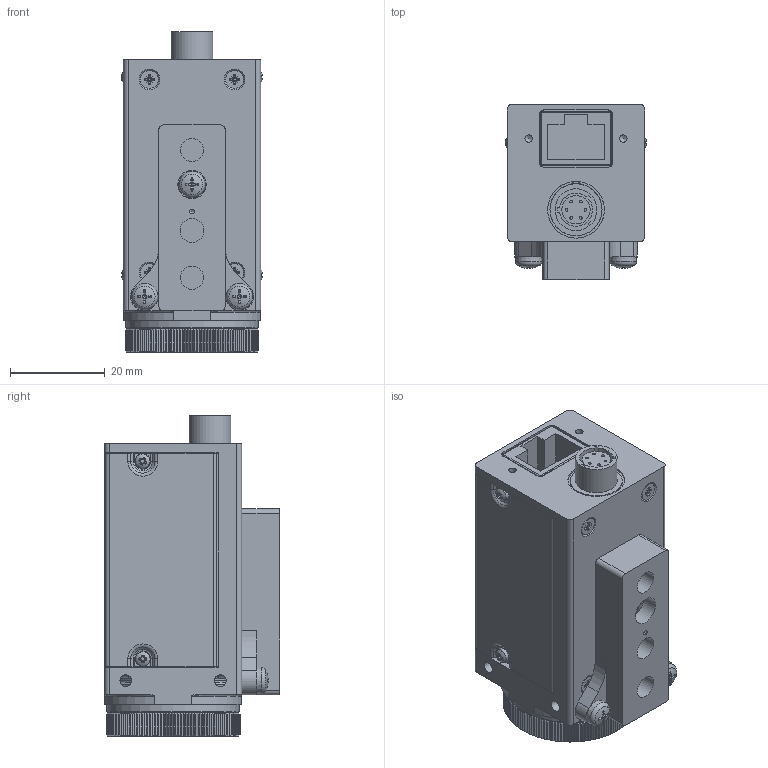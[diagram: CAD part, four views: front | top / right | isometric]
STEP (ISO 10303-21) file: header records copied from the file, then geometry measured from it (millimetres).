
FILE_DESCRIPTION(/* description */ ('XXXXplatte'),/* implementation_level */ '2;1');
FILE_NAME(/* name */ 'D:\1_Konstruktion\1_KUNDEN\TIS\139-12_135-12_124-11_121-11_FPGA-Kamera\121-11-2_FPGA-Kamera-RJ45_13-1\IPT und STEP Ableitungen für Kunden\121-11-21(FPGA-RJ45_CS-Frontpl-13,1_ER-6,7)\121-11-21(FPGA-RJ45_CS-Frontpl-13,1_ER-6,7).stp',/* time_stamp */ '2016-06-06T10:44:31+02:00',/* author */ ('khw'),/* organization */ (''),/* preprocessor_version */ 'ST-DEVELOPER v15.2',/* originating_system */ 'Autodesk Inventor 2014',/* authorisation */ '6767,5 mm^3');
FILE_SCHEMA (('AUTOMOTIVE_DESIGN { 1 0 10303 214 3 1 1 }'));
Length unit declared in the file: millimetre
Products named in the file (5): 121-11-21(FPGA-RJ45_CS-Frontpl-13,1_ER-6,7)Redu; 121-11-2-00-02(TripodAdapter); DIN EN ISO 7045 H M3 x 6 - 4.8 - H; B3A1-0196_ Extension tube (5 mm); 121-11-21(FPGA-RJ45_CS-Frontpl-13,1_ER-6,7)step
Assembly tree (6 placements, depth 2):
  121-11-21(FPGA-RJ45_CS-Frontpl-13,1_ER-6,7)step
    121-11-21(FPGA-RJ45_CS-Frontpl-13,1_ER-6,7)Redu
    121-11-2-00-02(TripodAdapter)
    DIN EN ISO 7045 H M3 x 6 - 4.8 - H  x3
    B3A1-0196_ Extension tube (5 mm)
Bounding box: 29.72 x 37 x 67.75 mm (x, y, z)
Volume: 19956 mm3; surface area: 26096.5 mm2
Topology: 6 solids, 18 shells, 1705 faces, 4128 edges, 2494 vertices
Faces by surface type: plane 823, cone 507, cylinder 286, torus 66, sphere 15, bspline 8
Full cylindrical faces by diameter (mm): 0.45 x8, 0.6 x12, 0.8 x6, 1 x9, 1.221 x10, 1.425 x4, 1.567 x10, 1.6 x8, 1.755 x4, 1.8 x2, 1.9 x4, 2.2 x4, 2.459 x9, 2.729 x3, 3 x5, 3.3 x3, 3.8 x4, 4 x4, 4.917 x2, 4.978 x1, 6 x2, 7.76 x1, 8 x1, 8.85 x1, 11 x1, 12 x2, 20.2 x1, 21.9 x1, 22 x2, 22.5 x1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
Entity records: 47077 total; most frequent: CARTESIAN_POINT 10738, DIRECTION 7324, ORIENTED_EDGE 7288, EDGE_CURVE 3644, AXIS2_PLACEMENT_3D 2932, VERTEX_POINT 2288, EDGE_LOOP 1998, ADVANCED_FACE 1643
